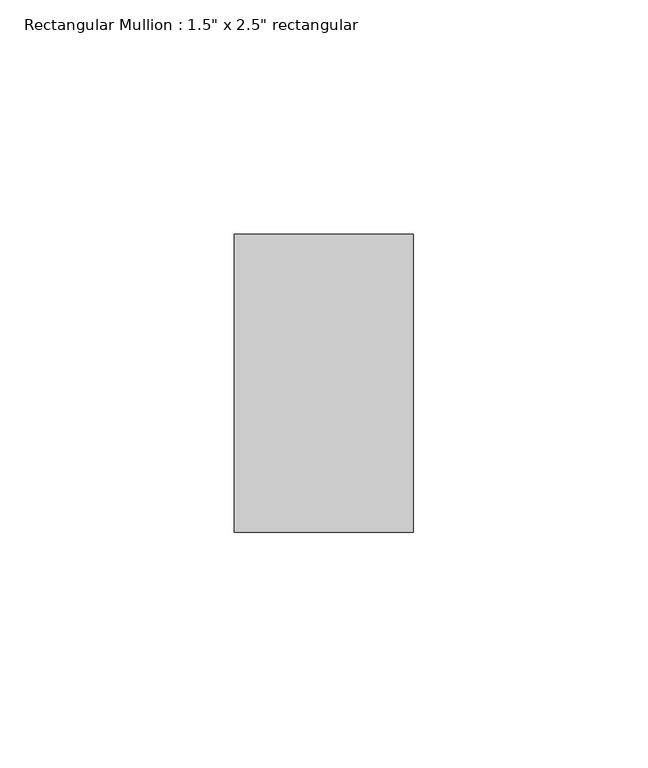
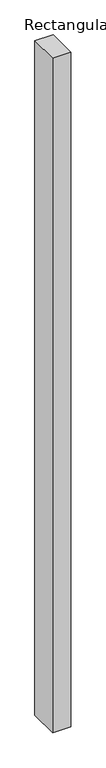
"""IFC4 building model written with IfcOpenShell, lengths in millimetres: member geometry."""

import ifcopenshell
import ifcopenshell.guid

model = None  # the IFC model being written
_history = None  # IfcOwnerHistory: only IFC2X3 demands one
_inside = {}  # id of a spatial element -> (the spatial element, [elements in it])
_under = {}  # id of a project, library or spatial element -> (it, [spatial elements below it])
_declared = {}  # id of a project -> (the project, [libraries it declares])
_typed = {}  # id of a type object -> (the type object, [elements of that type])
_made_of = {}  # id of a material, layer set ... -> (it, [elements and type objects made of it])


def new_model(schema):
    """Start an empty IFC model of exactly this schema.

    Asked for "IFC4X3", IfcOpenShell would pick the latest addendum, in which some entities
    have other attributes; the version numbers below select the first issue.
    IFC2X3 requires an IfcOwnerHistory on every rooted entity: one is made here for all.
    """
    global model, _history
    if schema == "IFC4X3":
        model = ifcopenshell.file(schema_version=(4, 3, 0, 0))
    else:
        model = ifcopenshell.file(schema=schema)
    _inside.clear()
    _under.clear()
    _declared.clear()
    _typed.clear()
    _made_of.clear()
    _history = None
    if model.schema == "IFC2X3":
        org = make("IfcOrganization", Name="unknown")
        user = make(
            "IfcPersonAndOrganization",
            ThePerson=make("IfcPerson", FamilyName="unknown"),
            TheOrganization=org,
        )
        app = make(
            "IfcApplication",
            ApplicationDeveloper=org,
            Version="unknown",
            ApplicationFullName="unknown",
            ApplicationIdentifier="unknown",
        )
        _history = make(
            "IfcOwnerHistory",
            OwningUser=user,
            OwningApplication=app,
            ChangeAction="ADDED",
            CreationDate=0,
        )
    return model


def make(cls, **values):
    """One entity of the class cls with the attributes given. An attribute that is None is left unset."""
    return model.create_entity(
        cls, **{name: value for name, value in values.items() if value is not None}
    )


def rooted(cls, **values):
    """An entity with a GlobalId (a new one), such as an element, a storey or a relation."""
    return make(cls, GlobalId=ifcopenshell.guid.new(), OwnerHistory=_history, **values)


def si_unit(unit_type, name, prefix=None):
    """IfcSIUnit, for example si_unit("LENGTHUNIT", "METRE", prefix="MILLI")."""
    return make("IfcSIUnit", UnitType=unit_type, Prefix=prefix, Name=name)


def assignment(units):
    """IfcUnitAssignment: the units of a project."""
    return None if units is None else make("IfcUnitAssignment", Units=units)


def point(xyz):
    """IfcCartesianPoint."""
    return None if xyz is None else make("IfcCartesianPoint", Coordinates=xyz)


def direction(xyz):
    """IfcDirection."""
    return None if xyz is None else make("IfcDirection", DirectionRatios=xyz)


def frame(location, z_axis=None, x_axis=None):
    """IfcAxis2Placement3D, a coordinate frame: its origin and axes. An axis left out is left unset."""
    return make(
        "IfcAxis2Placement3D",
        Location=point(location),
        Axis=direction(z_axis),
        RefDirection=direction(x_axis),
    )


def origin():
    """The frame at (0, 0, 0) with its axes left unset."""
    return frame((0.0, 0.0, 0.0))


def place(relative_to, where):
    """IfcLocalPlacement: puts the frame where relative to a parent placement (None: the world)."""
    return make(
        "IfcLocalPlacement", PlacementRelTo=relative_to, RelativePlacement=where
    )


def context(
    kind, dimensions, precision=None, world=None, true_north=None, identifier=None
):
    """IfcGeometricRepresentationContext, for example the 3D "Model" context."""
    return make(
        "IfcGeometricRepresentationContext",
        ContextIdentifier=identifier,
        ContextType=kind,
        CoordinateSpaceDimension=dimensions,
        Precision=precision,
        WorldCoordinateSystem=world,
        TrueNorth=true_north,
    )


def project(units=None, contexts=None):
    """IfcProject with its units and contexts."""
    return rooted(
        "IfcProject",
        Name="project",
        RepresentationContexts=contexts,
        UnitsInContext=assignment(units),
    )


def spatial(cls, under=None, at=None, **own):
    """A site, building, storey or space (cls), placed at a placement, below another one or the project."""
    s = rooted(cls, ObjectPlacement=at, **own)
    if under is not None:
        _under.setdefault(under.id(), (under, []))[1].append(s)
    return s


def polyline(points):
    """IfcPolyline through the points."""
    return make("IfcPolyline", Points=[point(p) for p in points])


def outline(outer, holes=None, kind="AREA"):
    """IfcArbitraryClosedProfileDef: a profile drawn as a closed curve; with holes, ...WithVoids."""
    if holes is None:
        return make("IfcArbitraryClosedProfileDef", ProfileType=kind, OuterCurve=outer)
    return make(
        "IfcArbitraryProfileDefWithVoids",
        ProfileType=kind,
        OuterCurve=outer,
        InnerCurves=holes,
    )


def extrude(swept, where, along, depth):
    """IfcExtrudedAreaSolid: the profile swept, set in the frame where, extruded along a direction by depth."""
    return make(
        "IfcExtrudedAreaSolid",
        SweptArea=swept,
        Position=where,
        ExtrudedDirection=direction(along),
        Depth=depth,
    )


def shape(context_of_items, identifier, shape_type, items):
    """IfcShapeRepresentation: the items that make up one representation, for example the "Body"."""
    return make(
        "IfcShapeRepresentation",
        ContextOfItems=context_of_items,
        RepresentationIdentifier=identifier,
        RepresentationType=shape_type,
        Items=items,
    )


def source(mapping_origin, context_of_items, identifier, shape_type, items):
    """IfcRepresentationMap: a shape defined once, which mapped items show again and again."""
    return make(
        "IfcRepresentationMap",
        MappingOrigin=mapping_origin,
        MappedRepresentation=shape(context_of_items, identifier, shape_type, items),
    )


def transform(
    local_origin,
    x_axis=None,
    y_axis=None,
    z_axis=None,
    scale=None,
    scale2=None,
    scale3=None,
    uniform=True,
):
    """IfcCartesianTransformationOperator3D, or its non-uniform kind. x_axis, y_axis, z_axis: its Axis1, 2, 3."""
    if uniform:
        return make(
            "IfcCartesianTransformationOperator3D",
            Axis1=direction(x_axis),
            Axis2=direction(y_axis),
            LocalOrigin=point(local_origin),
            Scale=scale,
            Axis3=direction(z_axis),
        )
    return make(
        "IfcCartesianTransformationOperator3DnonUniform",
        Axis1=direction(x_axis),
        Axis2=direction(y_axis),
        LocalOrigin=point(local_origin),
        Scale=scale,
        Axis3=direction(z_axis),
        Scale2=scale2,
        Scale3=scale3,
    )


def mapped(mapping_source, mapping_target):
    """IfcMappedItem: shows the shape of a source again, moved by a transform."""
    return make(
        "IfcMappedItem", MappingSource=mapping_source, MappingTarget=mapping_target
    )


def made_of(thing, what):
    """Note that an element or type object is made of a material, layer set ...; save() writes the relation."""
    if what is not None:
        _made_of.setdefault(what.id(), (what, []))[1].append(thing)
    return thing


def element(
    cls,
    number,
    at=None,
    inside=None,
    cuts=None,
    type_object=None,
    material=None,
    context=None,
    identifier="Body",
    shape_type=None,
    held_by="IfcProductDefinitionShape",
    body=None,
    shapes=None,
    **own,
):
    """One element of the class cls, such as IfcWall. Its Tag is "e" and its number.

    at: its placement. inside: the storey or other place that contains it. cuts: it is an
    opening in that element (IfcRelVoidsElement). A single representation is given by context,
    identifier, shape_type and body (its items); several are given by shapes. held_by: the class
    of the entity that holds the representations. save() writes the other relations.
    """
    e = rooted(cls, Tag="e%d" % number, ObjectPlacement=at, **own)
    if body is not None:
        shapes = [shape(context, identifier, shape_type, body)]
    if shapes is not None:
        e.Representation = make(held_by, Representations=shapes)
    if inside is not None:
        _inside.setdefault(inside.id(), (inside, []))[1].append(e)
    if cuts is not None:
        rooted(
            "IfcRelVoidsElement", RelatingBuildingElement=cuts, RelatedOpeningElement=e
        )
    if type_object is not None:
        _typed.setdefault(type_object.id(), (type_object, []))[1].append(e)
    return made_of(e, material)


def aggregate(whole, parts):
    """IfcRelAggregates: a whole, such as a stair, and the parts it consists of."""
    return rooted("IfcRelAggregates", RelatingObject=whole, RelatedObjects=parts)


def save(model, path):
    """Write the relations noted so far, then the file.

    IfcRelAggregates (storeys below a building ...), IfcRelContainedInSpatialStructure (elements
    in a storey), IfcRelDefinesByType, IfcRelAssociatesMaterial and IfcRelDeclares: one each for
    every whole, place, type object, material and project.
    """
    for whole, parts in _under.values():
        aggregate(whole, parts)
    for where, things in _inside.values():
        rooted(
            "IfcRelContainedInSpatialStructure",
            RelatedElements=things,
            RelatingStructure=where,
        )
    for kind, things in _typed.values():
        rooted("IfcRelDefinesByType", RelatedObjects=things, RelatingType=kind)
    for what, things in _made_of.values():
        rooted("IfcRelAssociatesMaterial", RelatedObjects=things, RelatingMaterial=what)
    for by, libraries in _declared.values():
        rooted("IfcRelDeclares", RelatingContext=by, RelatedDefinitions=libraries)
    model.write(path)


def member_50b54f6d(model_context):
    return source(origin(), model_context, "Body", "SweptSolid", [
        extrude(outline(polyline([(19.05, 31.75), (19.05, -31.75), (-19.05, -31.75), (-19.05, 31.75), (19.05, 31.75)])), frame((0.0, 0.0, -1485.0192801), z_axis=(0.0, 0.0, 1.0), x_axis=(1.0, 0.0, 0.0)), (0.0, 0.0, 1.0), 1485.0192801),
    ])


if __name__ == "__main__":
    model = new_model("IFC4")
    model_context = context("Model", 3, world=origin())
    ifc_project = project(units=[si_unit("LENGTHUNIT", "METRE", prefix="MILLI")], contexts=[model_context])
    site = spatial("IfcSite", under=ifc_project)
    building = spatial("IfcBuilding", under=site)
    placement = place(None, origin())
    member_shape = member_50b54f6d(model_context)
    element("IfcMember", 1, ObjectType="Rectangular Mullion : 1.5\" x 2.5\" rectangular", at=placement, inside=building, context=model_context, shape_type="MappedRepresentation", body=[
        mapped(member_shape, transform((0.0, 0.0, 0.0), x_axis=(1.0, 0.0, 0.0), y_axis=(0.0, 1.0, 0.0), z_axis=(0.0, 0.0, 1.0))),
    ])
    save(model, "model.ifc")
